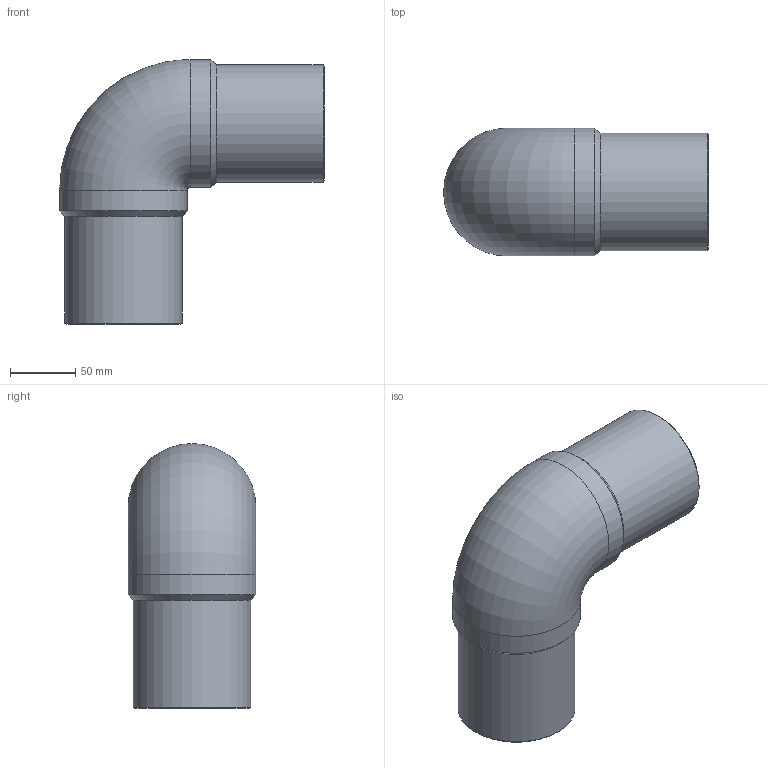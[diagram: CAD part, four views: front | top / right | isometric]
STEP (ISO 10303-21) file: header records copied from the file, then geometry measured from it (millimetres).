
FILE_DESCRIPTION(/* description */ ('Unknown'),/* implementation_level */ '2;1');
FILE_NAME(/* name */ 'G9P090C',/* time_stamp */ '2021-11-15T11:00:49+01:00',/* author */ ('Unknown'),/* organization */ ('Unknown'),/* preprocessor_version */ 'ST-DEVELOPER v16.7',/* originating_system */ 'Solid Edge',/* authorisation */ 'Unknown');
FILE_SCHEMA (('AUTOMOTIVE_DESIGN {1 0 10303 214 3 1 1}'));
Length unit declared in the file: millimetre
Products named in the file (1): G9P090C
Bounding box: 203 x 98 x 203 mm (x, y, z)
Volume: 748320.5 mm3; surface area: 155075.2 mm2
Topology: 1 solids, 1 shells, 14 faces, 34 edges, 22 vertices
Faces by surface type: cylinder 6, cone 4, plane 2, torus 2
Full cylindrical faces by diameter (mm): 73.6 x2, 90 x2, 98 x2
Entity records: 372 total; most frequent: CARTESIAN_POINT 72, DIRECTION 60, ORIENTED_EDGE 38, AXIS2_PLACEMENT_3D 30, EDGE_LOOP 27, FACE_BOUND 27, EDGE_CURVE 19, VERTEX_POINT 18
